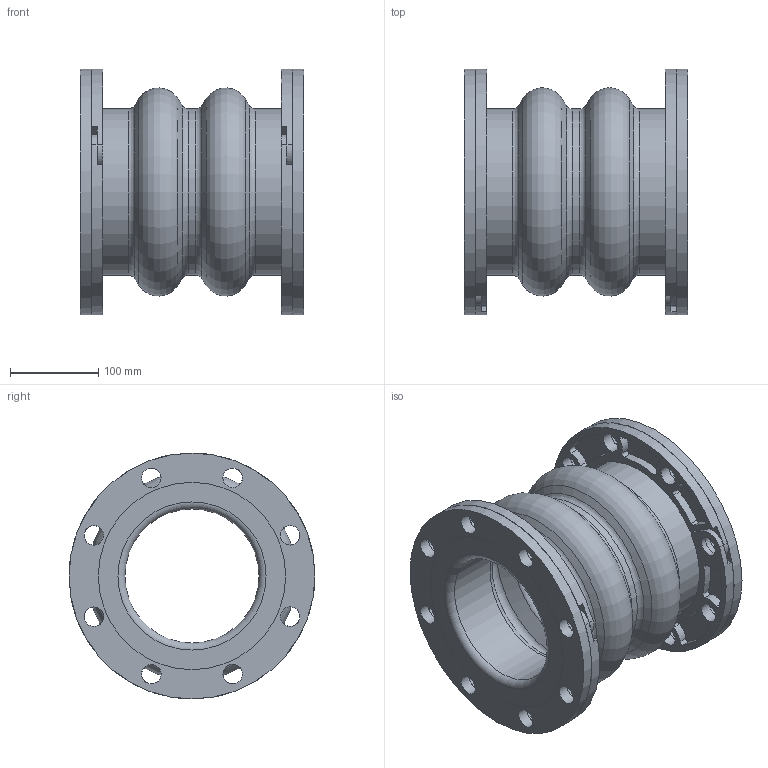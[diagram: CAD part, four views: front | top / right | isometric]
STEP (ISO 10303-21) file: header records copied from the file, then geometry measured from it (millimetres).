
FILE_DESCRIPTION(/* description */ (''),/* implementation_level */ '2;1');
FILE_NAME(/* name */ 'C:\001_Work\Designs\Mercer2014\MQInventor2014\RajR\700 Style\702\STP\702 6IDx10FF.stp',/* time_stamp */ '2016-04-10T12:47:21-04:00',/* author */ ('rramoutar'),/* organization */ ('Mason Industries Inc.'),/* preprocessor_version */ 'ST-DEVELOPER v15.6',/* originating_system */ 'Autodesk Inventor 2015',/* authorisation */ '');
FILE_SCHEMA (('CONFIG_CONTROL_DESIGN'));
Length unit declared in the file: inch
Products named in the file (1): 702 6IDx10FF
Bounding box: 254 x 279.4 x 279.4 mm (x, y, z)
Volume: 4424846 mm3; surface area: 705463.1 mm2
Topology: 5 solids, 5 shells, 272 faces, 706 edges, 464 vertices
Faces by surface type: cylinder 188, plane 62, torus 14, cone 8
Full cylindrical faces by diameter (mm): 22.225 x36, 152.4 x3, 188.912 x3, 279.4 x2
Entity records: 8640 total; most frequent: DIRECTION 1594, CARTESIAN_POINT 1369, ORIENTED_EDGE 1272, AXIS2_PLACEMENT_3D 685, EDGE_CURVE 636, VERTEX_POINT 460, EDGE_LOOP 432, CIRCLE 412
